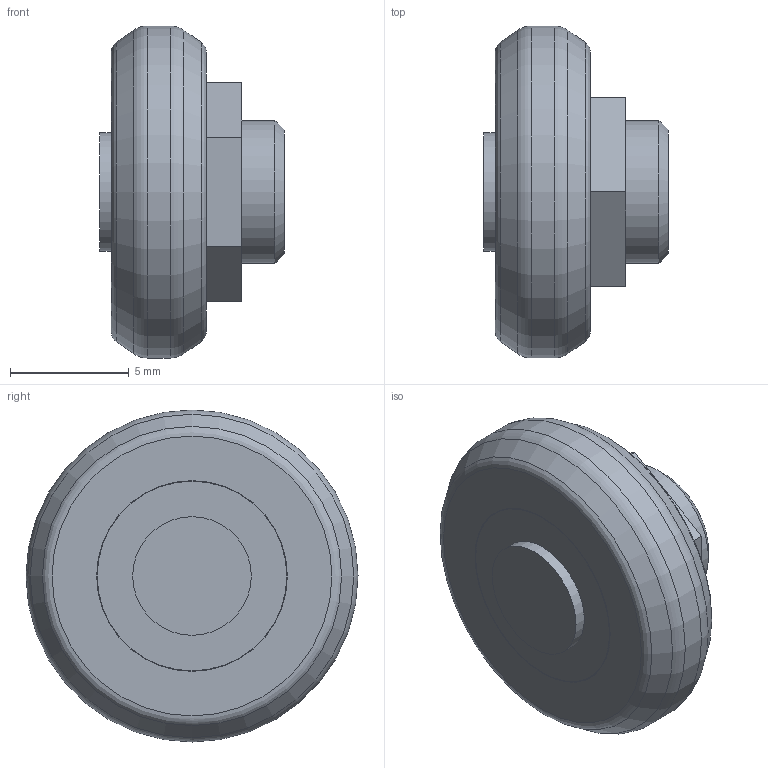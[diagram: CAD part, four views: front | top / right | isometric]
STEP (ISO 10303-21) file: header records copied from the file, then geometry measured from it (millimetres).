
FILE_DESCRIPTION( ( 'STEP AP203' ), '1' );
FILE_NAME( 'C:/Temp/Ganter_Step_05_03_2020/data/3_8/gn2426/Track GN 2426-18-N-2RS.stp', '2020-03-12T15:07:22', ( 'License CC BY-ND 4.0' ), ( 'CADENAS' ), ' ', 'PARTsolutions', ' ' );
FILE_SCHEMA( ( 'CONFIG_CONTROL_DESIGN' ) );
Length unit declared in the file: millimetre
Products named in the file (1): _Track GN 2426-18-N-2RS
Bounding box: 7.8 x 14 x 14 mm (x, y, z)
Volume: 659.6 mm3; surface area: 563.7 mm2
Topology: 1 solids, 1 shells, 28 faces, 54 edges, 33 vertices
Faces by surface type: plane 13, cylinder 6, cone 5, torus 4
Full cylindrical faces by diameter (mm): 3.242 x1, 5 x1, 6 x1, 8 x1, 8.04 x1, 14 x1
Entity records: 670 total; most frequent: DIRECTION 116, CARTESIAN_POINT 100, ORIENTED_EDGE 76, AXIS2_PLACEMENT_3D 49, EDGE_LOOP 48, FACE_OUTER_BOUND 38, EDGE_CURVE 38, VERTEX_POINT 33
